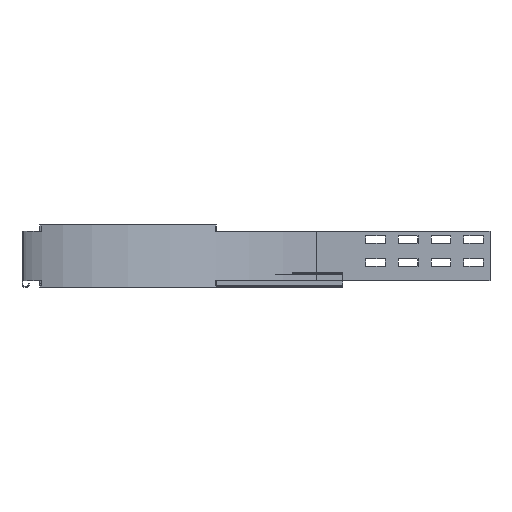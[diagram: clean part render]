
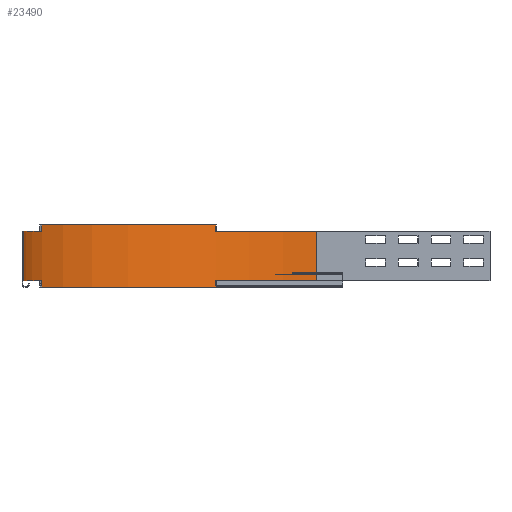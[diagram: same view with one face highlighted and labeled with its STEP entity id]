
A CAD part, left-side view. The second image highlights one B-rep face of the part: STEP entity #23490.
In plain terms, the highlighted cylindrical face has radius 447 mm (diameter 894 mm), a partial arc.
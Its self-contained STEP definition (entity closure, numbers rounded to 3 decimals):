
#920=CARTESIAN_POINT('',(420.043,-297.117,-50.));
#930=VERTEX_POINT('',#920);
#960=CARTESIAN_POINT('',(0.,-450.,-50.));
#970=DIRECTION('',(0.,0.,1.));
#980=DIRECTION('',(1.,0.,0.));
#990=AXIS2_PLACEMENT_3D('',#960,#970,#980);
#1000=CIRCLE('',#990,447.);
#1010=CARTESIAN_POINT('',(152.883,-29.957,-50.));
#1020=VERTEX_POINT('',#1010);
#1030=EDGE_CURVE('',#930,#1020,#1000,.T.);
#3000=CARTESIAN_POINT('',(447.,-450.,-60.));
#3010=VERTEX_POINT('',#3000);
#3060=CARTESIAN_POINT('',(0.,-450.,-60.));
#3070=DIRECTION('',(0.,0.,-1.));
#3080=DIRECTION('',(1.,0.,0.));
#3090=AXIS2_PLACEMENT_3D('',#3060,#3070,#3080);
#3100=CIRCLE('',#3090,447.);
#3110=CARTESIAN_POINT('',(420.043,-297.117,-60.));
#3120=VERTEX_POINT('',#3110);
#3130=EDGE_CURVE('',#3120,#3010,#3100,.T.);
#3540=CARTESIAN_POINT('',(0.,-450.,-145.));
#3550=DIRECTION('',(0.,0.,1.));
#3560=DIRECTION('',(1.,0.,0.));
#3570=AXIS2_PLACEMENT_3D('',#3540,#3550,#3560);
#3580=CIRCLE('',#3570,447.);
#3590=CARTESIAN_POINT('',(420.043,-297.117,-145.));
#3600=VERTEX_POINT('',#3590);
#3610=CARTESIAN_POINT('',(152.883,-29.957,-145.));
#3620=VERTEX_POINT('',#3610);
#3630=EDGE_CURVE('',#3600,#3620,#3580,.T.);
#3960=CARTESIAN_POINT('',(0.,-450.,-135.));
#3970=DIRECTION('',(0.,0.,1.));
#3980=DIRECTION('',(1.,0.,0.));
#3990=AXIS2_PLACEMENT_3D('',#3960,#3970,#3980);
#4000=CIRCLE('',#3990,447.);
#4010=CARTESIAN_POINT('',(152.883,-29.957,-135.));
#4020=VERTEX_POINT('',#4010);
#4030=CARTESIAN_POINT('',(0.,-3.,-135.));
#4040=VERTEX_POINT('',#4030);
#4050=EDGE_CURVE('',#4020,#4040,#4000,.T.);
#13310=CARTESIAN_POINT('',(0.,-3.,0.));
#13320=DIRECTION('',(0.,0.,-1.));
#13330=VECTOR('',#13320,1.);
#13340=LINE('',#13310,#13330);
#13350=CARTESIAN_POINT('',(0.,-3.,-60.));
#13360=VERTEX_POINT('',#13350);
#13370=EDGE_CURVE('',#13360,#4040,#13340,.T.);
#16300=CARTESIAN_POINT('',(447.,-450.,-135.));
#16310=VERTEX_POINT('',#16300);
#16340=CARTESIAN_POINT('',(447.,-450.,0.));
#16350=DIRECTION('',(0.,0.,1.));
#16360=VECTOR('',#16350,1.);
#16370=LINE('',#16340,#16360);
#16380=EDGE_CURVE('',#16310,#3010,#16370,.T.);
#21550=CARTESIAN_POINT('',(420.043,-297.117,-10.));
#21560=DIRECTION('',(0.,0.,1.));
#21570=VECTOR('',#21560,1.);
#21580=LINE('',#21550,#21570);
#21590=EDGE_CURVE('',#3120,#930,#21580,.T.);
#21720=CARTESIAN_POINT('',(152.883,-29.957,-10.));
#21730=DIRECTION('',(0.,0.,1.));
#21740=VECTOR('',#21730,1.);
#21750=LINE('',#21720,#21740);
#21760=EDGE_CURVE('',#3620,#4020,#21750,.T.);
#21900=CARTESIAN_POINT('',(152.883,-29.957,-60.));
#21910=VERTEX_POINT('',#21900);
#21960=CARTESIAN_POINT('',(152.883,-29.957,-10.));
#21970=DIRECTION('',(0.,0.,1.));
#21980=VECTOR('',#21970,1.);
#21990=LINE('',#21960,#21980);
#22000=EDGE_CURVE('',#21910,#1020,#21990,.T.);
#22160=CARTESIAN_POINT('',(420.043,-297.117,-135.));
#22170=VERTEX_POINT('',#22160);
#22200=CARTESIAN_POINT('',(0.,-450.,-135.));
#22210=DIRECTION('',(0.,0.,1.));
#22220=DIRECTION('',(1.,0.,0.));
#22230=AXIS2_PLACEMENT_3D('',#22200,#22210,#22220);
#22240=CIRCLE('',#22230,447.);
#22250=EDGE_CURVE('',#16310,#22170,#22240,.T.);
#23190=CARTESIAN_POINT('',(0.,-450.,-10.));
#23200=DIRECTION('',(0.,0.,1.));
#23210=DIRECTION('',(1.,0.,0.));
#23220=AXIS2_PLACEMENT_3D('',#23190,#23200,#23210);
#23230=CYLINDRICAL_SURFACE('',#23220,447.);
#23240=ORIENTED_EDGE('',*,*,#4050,.F.);
#23250=ORIENTED_EDGE('',*,*,#13370,.T.);
#23260=CARTESIAN_POINT('',(0.,-450.,-60.));
#23270=DIRECTION('',(0.,0.,-1.));
#23280=DIRECTION('',(1.,0.,0.));
#23290=AXIS2_PLACEMENT_3D('',#23260,#23270,#23280);
#23300=CIRCLE('',#23290,447.);
#23310=EDGE_CURVE('',#13360,#21910,#23300,.T.);
#23320=ORIENTED_EDGE('',*,*,#23310,.F.);
#23330=ORIENTED_EDGE('',*,*,#22000,.F.);
#23340=ORIENTED_EDGE('',*,*,#1030,.T.);
#23350=ORIENTED_EDGE('',*,*,#21590,.T.);
#23360=ORIENTED_EDGE('',*,*,#3130,.F.);
#23370=ORIENTED_EDGE('',*,*,#16380,.T.);
#23380=ORIENTED_EDGE('',*,*,#22250,.F.);
#23390=CARTESIAN_POINT('',(420.043,-297.117,-10.));
#23400=DIRECTION('',(0.,0.,1.));
#23410=VECTOR('',#23400,1.);
#23420=LINE('',#23390,#23410);
#23430=EDGE_CURVE('',#3600,#22170,#23420,.T.);
#23440=ORIENTED_EDGE('',*,*,#23430,.T.);
#23450=ORIENTED_EDGE('',*,*,#3630,.F.);
#23460=ORIENTED_EDGE('',*,*,#21760,.F.);
#23470=EDGE_LOOP('',(#23460,#23450,#23440,#23380,#23370,#23360,#23350,
#23340,#23330,#23320,#23250,#23240));
#23480=FACE_OUTER_BOUND('',#23470,.T.);
#23490=ADVANCED_FACE('',(#23480),#23230,.F.);
